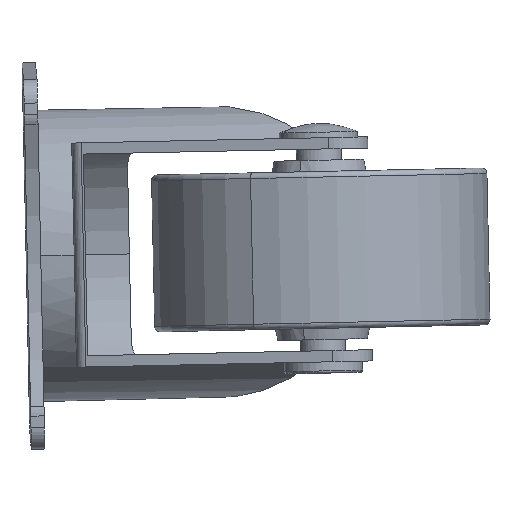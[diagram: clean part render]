
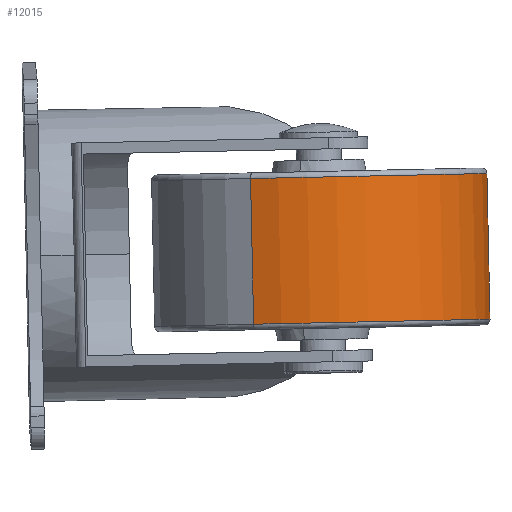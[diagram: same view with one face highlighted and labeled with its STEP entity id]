
A CAD part, left-side view. The second image highlights one B-rep face of the part: STEP entity #12015.
In plain terms, the highlighted cylindrical face has radius 15 mm (diameter 30 mm), a partial arc.
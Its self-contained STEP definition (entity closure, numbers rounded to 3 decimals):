
#712 = VERTEX_POINT ( 'NONE', #7253 ) ;
#809 = ORIENTED_EDGE ( 'NONE', *, *, #5618, .T. ) ;
#1194 = CARTESIAN_POINT ( 'NONE',  ( 0., 0., 0. ) ) ;
#1811 = VERTEX_POINT ( 'NONE', #3101 ) ;
#2047 = CIRCLE ( 'NONE', #13901, 15. ) ;
#3101 = CARTESIAN_POINT ( 'NONE',  ( 0., 6.5, 15. ) ) ;
#3414 = VECTOR ( 'NONE', #8040, 1000. ) ;
#3486 = LINE ( 'NONE', #6583, #3641 ) ;
#3636 = ORIENTED_EDGE ( 'NONE', *, *, #12186, .T. ) ;
#3641 = VECTOR ( 'NONE', #8857, 1000. ) ;
#3808 = ORIENTED_EDGE ( 'NONE', *, *, #6663, .T. ) ;
#4278 = CARTESIAN_POINT ( 'NONE',  ( 0., 6.5, 0. ) ) ;
#4530 = DIRECTION ( 'NONE',  ( 0., -1., 0. ) ) ;
#4653 = DIRECTION ( 'NONE',  ( 0., 0., -1. ) ) ;
#5145 = DIRECTION ( 'NONE',  ( 0., 0., 1. ) ) ;
#5311 = DIRECTION ( 'NONE',  ( 0., 1., 0. ) ) ;
#5618 = EDGE_CURVE ( 'NONE', #1811, #14077, #2047, .T. ) ;
#5935 = LINE ( 'NONE', #10230, #3414 ) ;
#6522 = EDGE_CURVE ( 'NONE', #1811, #8344, #3486, .T. ) ;
#6583 = CARTESIAN_POINT ( 'NONE',  ( 0., 0., 15. ) ) ;
#6663 = EDGE_CURVE ( 'NONE', #14077, #712, #5935, .T. ) ;
#6702 = CYLINDRICAL_SURFACE ( 'NONE', #12517, 15. ) ;
#7036 = CARTESIAN_POINT ( 'NONE',  ( 0., -6.5, 15. ) ) ;
#7253 = CARTESIAN_POINT ( 'NONE',  ( 0., -6.5, -15. ) ) ;
#7624 = AXIS2_PLACEMENT_3D ( 'NONE', #14120, #5311, #4653 ) ;
#8040 = DIRECTION ( 'NONE',  ( 0., -1., 0. ) ) ;
#8344 = VERTEX_POINT ( 'NONE', #7036 ) ;
#8857 = DIRECTION ( 'NONE',  ( 0., -1., 0. ) ) ;
#9326 = DIRECTION ( 'NONE',  ( 0., 0., -1. ) ) ;
#9492 = CIRCLE ( 'NONE', #7624, 15. ) ;
#10230 = CARTESIAN_POINT ( 'NONE',  ( 0., 0., -15. ) ) ;
#11240 = CARTESIAN_POINT ( 'NONE',  ( 0., 6.5, -15. ) ) ;
#11610 = EDGE_LOOP ( 'NONE', ( #13575, #809, #3808, #3636 ) ) ;
#12015 = ADVANCED_FACE ( 'NONE', ( #12236 ), #6702, .T. ) ;
#12186 = EDGE_CURVE ( 'NONE', #712, #8344, #9492, .T. ) ;
#12236 = FACE_OUTER_BOUND ( 'NONE', #11610, .T. ) ;
#12517 = AXIS2_PLACEMENT_3D ( 'NONE', #1194, #4530, #9326 ) ;
#13090 = DIRECTION ( 'NONE',  ( 0., -1., 0. ) ) ;
#13575 = ORIENTED_EDGE ( 'NONE', *, *, #6522, .F. ) ;
#13901 = AXIS2_PLACEMENT_3D ( 'NONE', #4278, #13090, #5145 ) ;
#14077 = VERTEX_POINT ( 'NONE', #11240 ) ;
#14120 = CARTESIAN_POINT ( 'NONE',  ( 0., -6.5, 0. ) ) ;
